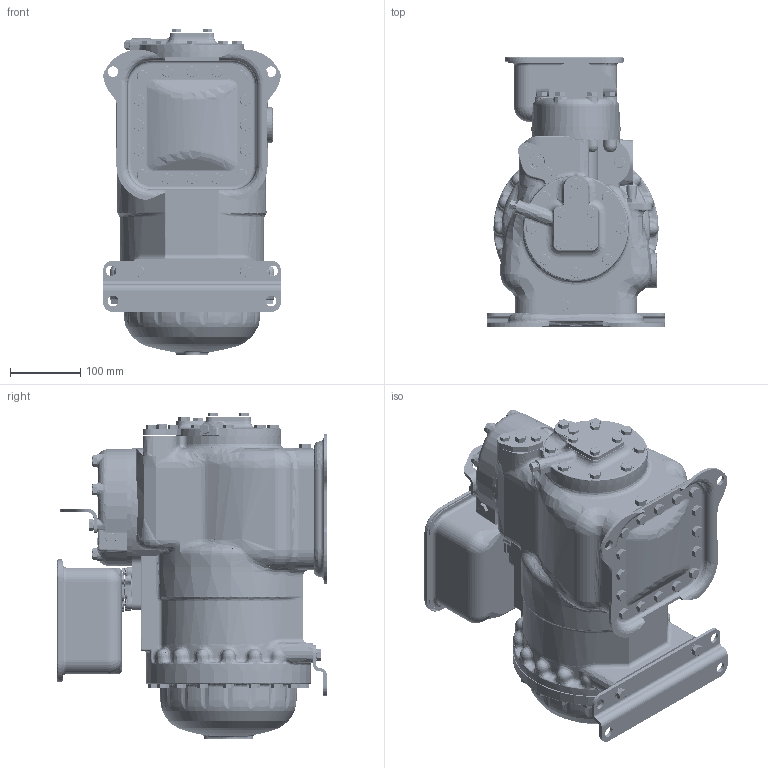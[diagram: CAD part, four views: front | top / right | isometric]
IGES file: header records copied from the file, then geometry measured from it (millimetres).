
Start section:  PTC IGES file: 06d2_1ph.igs
Global section: file name: 06d2_1ph.igs; native system: Pro/ENGINEER by Parametric Technology Corporation; preprocessor: 2010180; author: cactfrq; organization: Unknown; date: 20110516.161144; units: inch
Bounding box: 254 x 384.94 x 465.91 mm (x, y, z)
Surface area: 1495574.4 mm2 (no closed solid volume)
Topology: 0 solids, 0 shells, 5146 faces, 27512 edges, 27441 vertices
Faces by surface type: revolution 2593, bspline 2553
